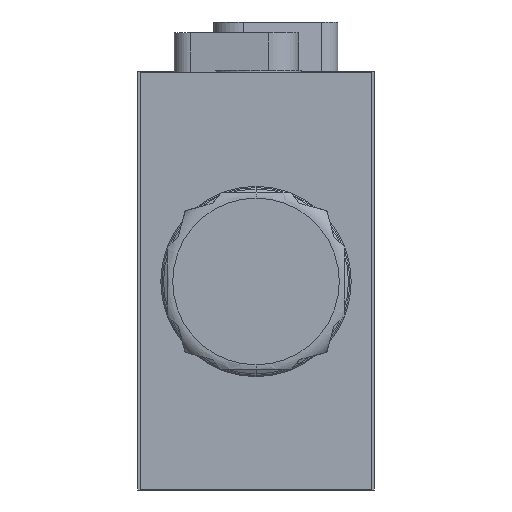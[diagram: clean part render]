
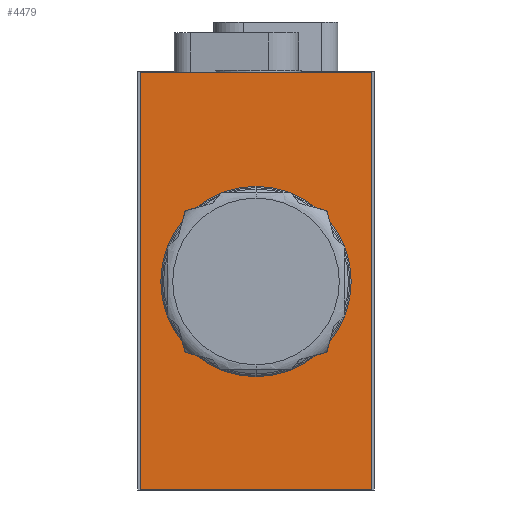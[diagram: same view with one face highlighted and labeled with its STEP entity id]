
A CAD part, front view. The second image highlights one B-rep face of the part: STEP entity #4479.
In plain terms, the highlighted planar face has unit normal (0, -1, 0).
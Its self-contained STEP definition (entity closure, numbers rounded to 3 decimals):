
#1495=DIRECTION('',(-1.,0.,0.));
#1496=VECTOR('',#1495,25.4);
#1497=CARTESIAN_POINT('',(12.7,-53.8,-45.9));
#1498=LINE('',#1497,#1496);
#1499=DIRECTION('',(0.,0.,1.));
#1500=VECTOR('',#1499,45.8);
#1501=CARTESIAN_POINT('',(-12.7,-53.8,-45.9));
#1502=LINE('',#1501,#1500);
#1503=DIRECTION('',(1.,0.,0.));
#1504=VECTOR('',#1503,25.4);
#1505=CARTESIAN_POINT('',(-12.7,-53.8,-0.1));
#1506=LINE('',#1505,#1504);
#1507=DIRECTION('',(0.,0.,-1.));
#1508=VECTOR('',#1507,45.8);
#1509=CARTESIAN_POINT('',(12.7,-53.8,-0.1));
#1510=LINE('',#1509,#1508);
#1511=CARTESIAN_POINT('',(0.,-53.8,-23.1));
#1512=DIRECTION('',(0.,-1.,0.));
#1513=DIRECTION('',(0.,0.,-1.));
#1514=AXIS2_PLACEMENT_3D('',#1511,#1512,#1513);
#1516=CARTESIAN_POINT('',(0.,-53.8,-23.1));
#1517=DIRECTION('',(0.,-1.,0.));
#1518=DIRECTION('',(0.,0.,1.));
#1519=AXIS2_PLACEMENT_3D('',#1516,#1517,#1518);
#2586=CARTESIAN_POINT('',(12.7,-53.8,-45.9));
#2587=CARTESIAN_POINT('',(-12.7,-53.8,-45.9));
#2588=VERTEX_POINT('',#2586);
#2589=VERTEX_POINT('',#2587);
#2590=CARTESIAN_POINT('',(-12.7,-53.8,-0.1));
#2591=VERTEX_POINT('',#2590);
#2592=CARTESIAN_POINT('',(12.7,-53.8,-0.1));
#2593=VERTEX_POINT('',#2592);
#2692=CARTESIAN_POINT('',(0.,-53.8,-25.6));
#2693=CARTESIAN_POINT('',(0.,-53.8,-20.6));
#2694=VERTEX_POINT('',#2692);
#2695=VERTEX_POINT('',#2693);
#4462=CARTESIAN_POINT('',(0.,-53.8,0.));
#4463=DIRECTION('',(0.,1.,0.));
#4464=DIRECTION('',(1.,0.,0.));
#4465=AXIS2_PLACEMENT_3D('',#4462,#4463,#4464);
#4466=PLANE('',#4465);
#4467=ORIENTED_EDGE('',*,*,#4404,.T.);
#4468=ORIENTED_EDGE('',*,*,#4419,.T.);
#4469=ORIENTED_EDGE('',*,*,#4433,.T.);
#4470=ORIENTED_EDGE('',*,*,#4456,.T.);
#4471=EDGE_LOOP('',(#4467,#4468,#4469,#4470));
#4472=FACE_OUTER_BOUND('',#4471,.F.);
#4474=ORIENTED_EDGE('',*,*,#4473,.T.);
#4476=ORIENTED_EDGE('',*,*,#4475,.T.);
#4477=EDGE_LOOP('',(#4474,#4476));
#4478=FACE_BOUND('',#4477,.F.);
#4479=ADVANCED_FACE('',(#4472,#4478),#4466,.F.);
#1515=CIRCLE('',#1514,2.5);
#1520=CIRCLE('',#1519,2.5);
#4404=EDGE_CURVE('',#2588,#2589,#1498,.T.);
#4419=EDGE_CURVE('',#2589,#2591,#1502,.T.);
#4433=EDGE_CURVE('',#2591,#2593,#1506,.T.);
#4456=EDGE_CURVE('',#2593,#2588,#1510,.T.);
#4473=EDGE_CURVE('',#2694,#2695,#1515,.T.);
#4475=EDGE_CURVE('',#2695,#2694,#1520,.T.);
